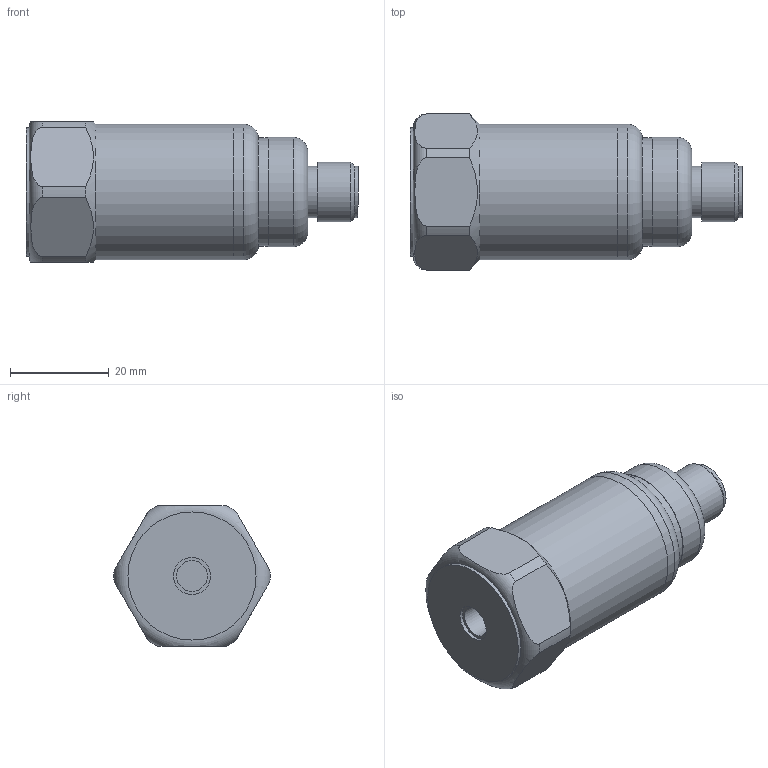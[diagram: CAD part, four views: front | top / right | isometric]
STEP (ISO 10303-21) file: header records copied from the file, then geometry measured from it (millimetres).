
FILE_DESCRIPTION(/* description */ (''),/* implementation_level */ '2;1');
FILE_NAME(/* name */ 'Z:\Engineering\Drawings\3D Library\Assemblies\Website\420 Velocity\HS-420XXX5401.stp',/* time_stamp */ '2023-05-03T13:12:19+01:00',/* author */ ('Ricardo.Peneda'),/* organization */ (''),/* preprocessor_version */ 'ST-DEVELOPER v18.1',/* originating_system */ 'Autodesk Inventor 2021',/* authorisation */ '');
FILE_SCHEMA (('AUTOMOTIVE_DESIGN { 1 0 10303 214 3 1 1 }'));
Length unit declared in the file: inch
Products named in the file (1): HS-420XXX5401_Shrinkwrap_1
Bounding box: 67.39 x 31.69 x 28.5 mm (x, y, z)
Volume: 14404.8 mm3; surface area: 11571.7 mm2
Topology: 3 solids, 3 shells, 55 faces, 144 edges, 106 vertices
Faces by surface type: cylinder 24, plane 23, torus 4, cone 4
Full cylindrical faces by diameter (mm): 6.3 x1, 7.5 x1, 9.4 x2, 10.496 x1, 10.5 x1, 12 x1, 18 x1, 19.95 x1, 20 x1, 22 x1, 22.2 x1, 23.3 x1, 25.3 x2, 26 x1, 27.5 x2
Entity records: 2005 total; most frequent: CARTESIAN_POINT 452, DIRECTION 338, ORIENTED_EDGE 288, AXIS2_PLACEMENT_3D 152, EDGE_CURVE 144, VERTEX_POINT 106, CIRCLE 96, EDGE_LOOP 68
